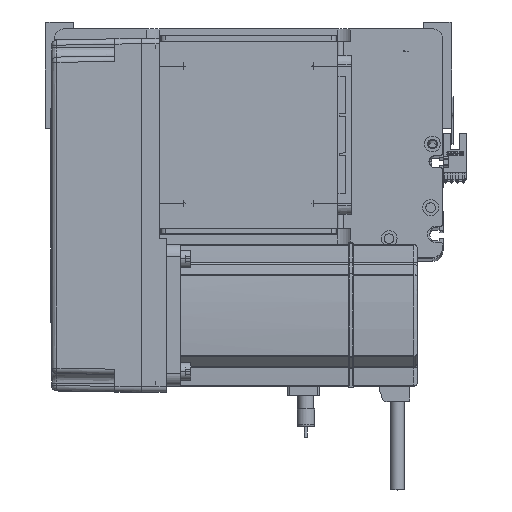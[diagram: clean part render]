
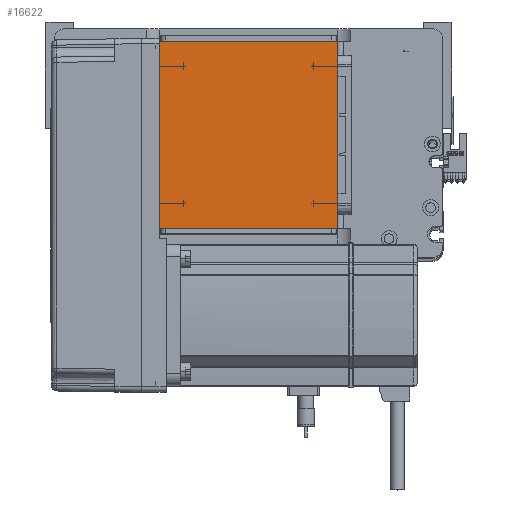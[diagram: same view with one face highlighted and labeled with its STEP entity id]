
A CAD part, top view. The second image highlights one B-rep face of the part: STEP entity #16622.
In plain terms, the highlighted planar face has unit normal (0, 0, 1).
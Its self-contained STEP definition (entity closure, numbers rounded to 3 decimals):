
#1944 = EDGE_CURVE ( 'NONE', #14316, #2132, #5044, .T. ) ;
#2132 = VERTEX_POINT ( 'NONE', #40959 ) ;
#5044 = LINE ( 'NONE', #27357, #16861 ) ;
#9930 = VECTOR ( 'NONE', #22865, 1000. ) ;
#10947 = EDGE_CURVE ( 'NONE', #25307, #42183, #31056, .T. ) ;
#11988 = EDGE_CURVE ( 'NONE', #42183, #14316, #41971, .T. ) ;
#14316 = VERTEX_POINT ( 'NONE', #26013 ) ;
#14571 = VECTOR ( 'NONE', #14641, 1000. ) ;
#14641 = DIRECTION ( 'NONE',  ( -1., 0., 0. ) ) ;
#14919 = LINE ( 'NONE', #19190, #9930 ) ;
#16622 = ADVANCED_FACE ( 'NONE', ( #48953 ), #37995, .T. ) ;
#16861 = VECTOR ( 'NONE', #23366, 1000. ) ;
#18927 = ORIENTED_EDGE ( 'NONE', *, *, #37806, .T. ) ;
#19190 = CARTESIAN_POINT ( 'NONE',  ( -50.5, 16., 115. ) ) ;
#22865 = DIRECTION ( 'NONE',  ( 1., 0., 0. ) ) ;
#23366 = DIRECTION ( 'NONE',  ( 0., -1., 0. ) ) ;
#25307 = VERTEX_POINT ( 'NONE', #31160 ) ;
#26013 = CARTESIAN_POINT ( 'NONE',  ( -50.5, 122., 115. ) ) ;
#27357 = CARTESIAN_POINT ( 'NONE',  ( -50.5, 122., 115. ) ) ;
#30986 = AXIS2_PLACEMENT_3D ( 'NONE', #34035, #34212, #50153 ) ;
#31056 = LINE ( 'NONE', #49462, #42251 ) ;
#31160 = CARTESIAN_POINT ( 'NONE',  ( 50.5, 16., 115. ) ) ;
#31796 = ORIENTED_EDGE ( 'NONE', *, *, #11988, .T. ) ;
#34035 = CARTESIAN_POINT ( 'NONE',  ( 0., 0., 115. ) ) ;
#34037 = DIRECTION ( 'NONE',  ( 0., 1., 0. ) ) ;
#34212 = DIRECTION ( 'NONE',  ( 0., 0., 1. ) ) ;
#36811 = ORIENTED_EDGE ( 'NONE', *, *, #10947, .T. ) ;
#37806 = EDGE_CURVE ( 'NONE', #2132, #25307, #14919, .T. ) ;
#37995 = PLANE ( 'NONE',  #30986 ) ;
#38434 = CARTESIAN_POINT ( 'NONE',  ( -50.5, 122., 115. ) ) ;
#38515 = EDGE_LOOP ( 'NONE', ( #47555, #18927, #36811, #31796 ) ) ;
#40249 = CARTESIAN_POINT ( 'NONE',  ( 50.5, 122., 115. ) ) ;
#40959 = CARTESIAN_POINT ( 'NONE',  ( -50.5, 16., 115. ) ) ;
#41971 = LINE ( 'NONE', #38434, #14571 ) ;
#42183 = VERTEX_POINT ( 'NONE', #40249 ) ;
#42251 = VECTOR ( 'NONE', #34037, 1000. ) ;
#47555 = ORIENTED_EDGE ( 'NONE', *, *, #1944, .T. ) ;
#48953 = FACE_OUTER_BOUND ( 'NONE', #38515, .T. ) ;
#49462 = CARTESIAN_POINT ( 'NONE',  ( 50.5, 122., 115. ) ) ;
#50153 = DIRECTION ( 'NONE',  ( 1., 0., 0. ) ) ;
